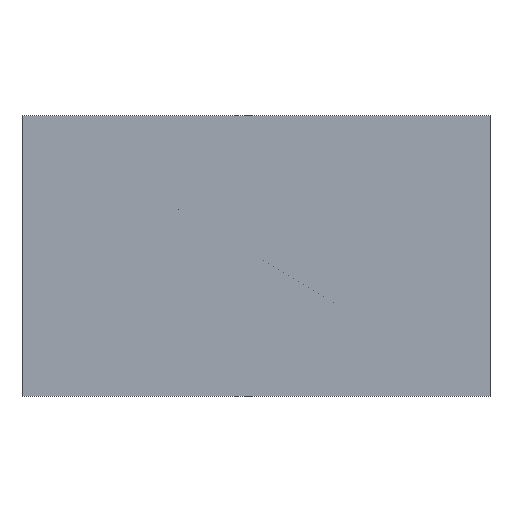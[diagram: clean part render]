
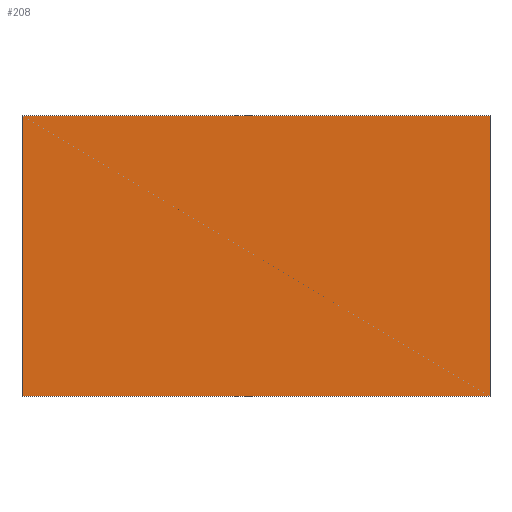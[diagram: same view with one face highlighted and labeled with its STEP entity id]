
A CAD part, front view. The second image highlights one B-rep face of the part: STEP entity #208.
In plain terms, the highlighted planar face has unit normal (0, -1, 0).
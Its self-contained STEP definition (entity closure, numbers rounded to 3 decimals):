
#26=FACE_OUTER_BOUND('',#38,.T.);
#38=EDGE_LOOP('',(#181,#182,#183,#184));
#58=LINE('',#335,#84);
#60=LINE('',#339,#86);
#62=LINE('',#343,#88);
#64=LINE('',#346,#90);
#84=VECTOR('',#278,10.);
#86=VECTOR('',#282,10.);
#88=VECTOR('',#286,10.);
#90=VECTOR('',#290,10.);
#103=VERTEX_POINT('',#332);
#104=VERTEX_POINT('',#334);
#105=VERTEX_POINT('',#338);
#106=VERTEX_POINT('',#342);
#126=EDGE_CURVE('',#104,#103,#58,.T.);
#128=EDGE_CURVE('',#105,#104,#60,.T.);
#130=EDGE_CURVE('',#106,#105,#62,.T.);
#132=EDGE_CURVE('',#103,#106,#64,.T.);
#181=ORIENTED_EDGE('',*,*,#132,.T.);
#182=ORIENTED_EDGE('',*,*,#130,.T.);
#183=ORIENTED_EDGE('',*,*,#128,.T.);
#184=ORIENTED_EDGE('',*,*,#126,.T.);
#196=PLANE('',#240);
#208=ADVANCED_FACE('',(#26),#196,.T.);
#240=AXIS2_PLACEMENT_3D('',#347,#291,#292);
#278=DIRECTION('',(-1.,0.,0.));
#282=DIRECTION('',(0.,0.,1.));
#286=DIRECTION('',(1.,0.,0.));
#290=DIRECTION('',(0.,0.,-1.));
#291=DIRECTION('center_axis',(0.,-1.,0.));
#292=DIRECTION('ref_axis',(0.,0.,-1.));
#332=CARTESIAN_POINT('',(-50.,-20.,30.));
#334=CARTESIAN_POINT('',(50.,-20.,30.));
#335=CARTESIAN_POINT('',(-50.,-20.,30.));
#338=CARTESIAN_POINT('',(50.,-20.,-30.));
#339=CARTESIAN_POINT('',(50.,-20.,30.));
#342=CARTESIAN_POINT('',(-50.,-20.,-30.));
#343=CARTESIAN_POINT('',(50.,-20.,-30.));
#346=CARTESIAN_POINT('',(-50.,-20.,-30.));
#347=CARTESIAN_POINT('Origin',(0.,-20.,0.));
